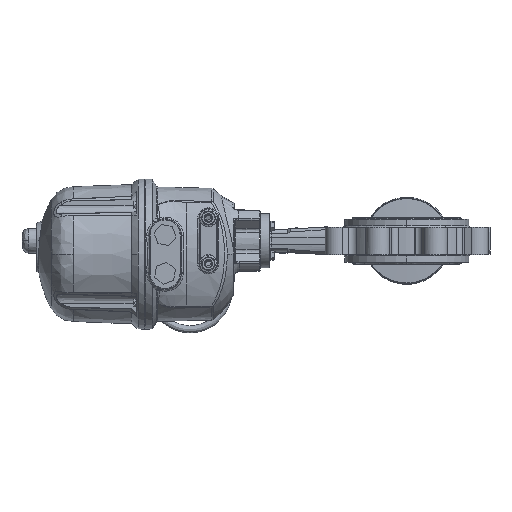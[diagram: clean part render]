
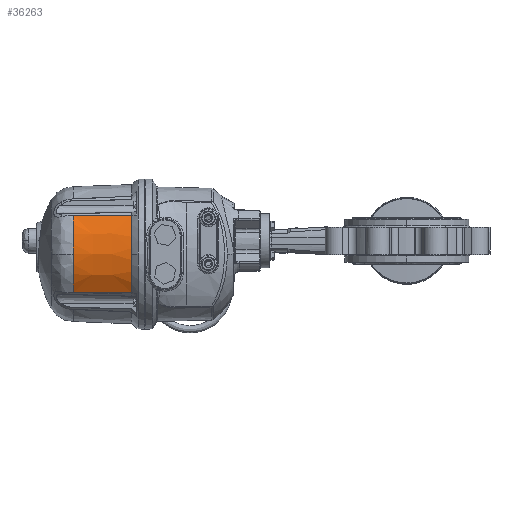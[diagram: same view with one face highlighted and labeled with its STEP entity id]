
A CAD part, left-side view. The second image highlights one B-rep face of the part: STEP entity #36263.
In plain terms, the highlighted conical face has half-angle 2 degrees and reference radius 83.436 mm.
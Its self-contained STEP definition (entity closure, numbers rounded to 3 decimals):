
#3614 = ORIENTED_EDGE ( 'NONE', *, *, #23811, .F. ) ;
#5311 = AXIS2_PLACEMENT_3D ( 'NONE', #90199, #66943, #81898 ) ;
#6573 = DIRECTION ( 'NONE',  ( 0., -1., 0. ) ) ;
#7229 = CARTESIAN_POINT ( 'NONE',  ( -66.328, 400.329, 30.479 ) ) ;
#8989 = B_SPLINE_CURVE_WITH_KNOTS ( 'NONE', 3,
 ( #38554, #72308, #30278, #64028 ),
 .UNSPECIFIED., .F., .F.,
 ( 4, 4 ),
 ( 0., 1. ),
 .UNSPECIFIED. ) ;
#9212 = VERTEX_POINT ( 'NONE', #86447 ) ;
#9348 = ORIENTED_EDGE ( 'NONE', *, *, #91630, .F. ) ;
#10455 = CARTESIAN_POINT ( 'NONE',  ( -66.357, 400.099, -62.452 ) ) ;
#12946 = B_SPLINE_CURVE_WITH_KNOTS ( 'NONE', 3,
 ( #79585, #70211, #71864, #29284, #20978, #10455, #96724, #54673, #60798, #80138 ),
 .UNSPECIFIED., .F., .F.,
 ( 4, 1, 1, 2, 2, 4 ),
 ( 0., 0.25, 0.375, 0.437, 0.5, 1. ),
 .UNSPECIFIED. ) ;
#14127 = CIRCLE ( 'NONE', #5311, 81.001 ) ;
#15043 = CARTESIAN_POINT ( 'NONE',  ( -66.328, 400.329, -62.479 ) ) ;
#16248 = CARTESIAN_POINT ( 'NONE',  ( -66.385, 400.082, 30.413 ) ) ;
#16710 = VERTEX_POINT ( 'NONE', #74043 ) ;
#18840 = B_SPLINE_CURVE_WITH_KNOTS ( 'NONE', 3,
 ( #54999, #88765, #103113, #79352 ),
 .UNSPECIFIED., .F., .F.,
 ( 4, 4 ),
 ( 0., 1. ),
 .UNSPECIFIED. ) ;
#18886 = CIRCLE ( 'NONE', #100071, 81.001 ) ;
#19364 = CARTESIAN_POINT ( 'NONE',  ( 0., 400.082, -16. ) ) ;
#20978 = CARTESIAN_POINT ( 'NONE',  ( -66.354, 400.12, -62.454 ) ) ;
#21290 = EDGE_CURVE ( 'NONE', #41592, #16710, #12946, .T. ) ;
#23058 = CIRCLE ( 'NONE', #54775, 83.436 ) ;
#23811 = EDGE_CURVE ( 'NONE', #23884, #92892, #86289, .T. ) ;
#23884 = VERTEX_POINT ( 'NONE', #74334 ) ;
#23890 = CARTESIAN_POINT ( 'NONE',  ( -66.347, 400.164, -62.462 ) ) ;
#26213 = EDGE_CURVE ( 'NONE', #85832, #9212, #18840, .T. ) ;
#29284 = CARTESIAN_POINT ( 'NONE',  ( -66.35, 400.152, -62.459 ) ) ;
#30278 = CARTESIAN_POINT ( 'NONE',  ( -68.006, 357.316, -62.698 ) ) ;
#33090 = CARTESIAN_POINT ( 'NONE',  ( -66.347, 400.161, 30.462 ) ) ;
#33682 = ORIENTED_EDGE ( 'NONE', *, *, #62757, .F. ) ;
#34162 = CARTESIAN_POINT ( 'NONE',  ( -66.396, 399.828, 30.413 ) ) ;
#34236 = ORIENTED_EDGE ( 'NONE', *, *, #21290, .T. ) ;
#35086 = EDGE_CURVE ( 'NONE', #53082, #85832, #23058, .T. ) ;
#36263 = ADVANCED_FACE ( 'NONE', ( #53575 ), #71000, .T. ) ;
#37164 = B_SPLINE_CURVE_WITH_KNOTS ( 'NONE', 3,
 ( #34162, #60134, #33090, #42415 ),
 .UNSPECIFIED., .F., .F.,
 ( 4, 4 ),
 ( 0., 0.001 ),
 .UNSPECIFIED. ) ;
#38073 = ORIENTED_EDGE ( 'NONE', *, *, #35086, .T. ) ;
#38554 = CARTESIAN_POINT ( 'NONE',  ( -66.396, 399.828, -62.413 ) ) ;
#41592 = VERTEX_POINT ( 'NONE', #101602 ) ;
#41653 = CARTESIAN_POINT ( 'NONE',  ( -66.328, 400.329, 30.479 ) ) ;
#42415 = CARTESIAN_POINT ( 'NONE',  ( -66.328, 400.329, 30.479 ) ) ;
#42675 = DIRECTION ( 'NONE',  ( 0., 1., 0. ) ) ;
#47856 = EDGE_CURVE ( 'NONE', #9212, #92892, #37164, .T. ) ;
#50460 = CARTESIAN_POINT ( 'NONE',  ( 0., 330.347, -16. ) ) ;
#51524 = DIRECTION ( 'NONE',  ( 1., 0., 0. ) ) ;
#53044 = DIRECTION ( 'NONE',  ( 1., 0., 0. ) ) ;
#53072 = CARTESIAN_POINT ( 'NONE',  ( -69.452, 330.043, 30.517 ) ) ;
#53082 = VERTEX_POINT ( 'NONE', #78954 ) ;
#53575 = FACE_OUTER_BOUND ( 'NONE', #108103, .T. ) ;
#54673 = CARTESIAN_POINT ( 'NONE',  ( -66.37, 400.005, -62.438 ) ) ;
#54775 = AXIS2_PLACEMENT_3D ( 'NONE', #50460, #42675, #51524 ) ;
#54999 = CARTESIAN_POINT ( 'NONE',  ( -69.045, 330.347, 30.844 ) ) ;
#55005 = AXIS2_PLACEMENT_3D ( 'NONE', #80704, #6573, #81796 ) ;
#59950 = B_SPLINE_CURVE_WITH_KNOTS ( 'NONE', 3,
 ( #90811, #99614, #23890, #15043 ),
 .UNSPECIFIED., .F., .F.,
 ( 4, 4 ),
 ( 0., 1. ),
 .UNSPECIFIED. ) ;
#60134 = CARTESIAN_POINT ( 'NONE',  ( -66.372, 399.995, 30.437 ) ) ;
#60798 = CARTESIAN_POINT ( 'NONE',  ( -66.382, 399.922, -62.427 ) ) ;
#62757 = EDGE_CURVE ( 'NONE', #64236, #68546, #14127, .T. ) ;
#64028 = CARTESIAN_POINT ( 'NONE',  ( -69.045, 330.347, -62.844 ) ) ;
#64236 = VERTEX_POINT ( 'NONE', #66003 ) ;
#65491 = CARTESIAN_POINT ( 'NONE',  ( -66.366, 400.082, 30.44 ) ) ;
#66003 = CARTESIAN_POINT ( 'NONE',  ( -66.385, 400.082, -62.413 ) ) ;
#66943 = DIRECTION ( 'NONE',  ( 0., 1., 0. ) ) ;
#68546 = VERTEX_POINT ( 'NONE', #83606 ) ;
#70211 = CARTESIAN_POINT ( 'NONE',  ( -66.333, 400.287, -62.475 ) ) ;
#71000 = CONICAL_SURFACE ( 'NONE', #55005, 83.436, 0.035 ) ;
#71864 = CARTESIAN_POINT ( 'NONE',  ( -66.34, 400.225, -62.468 ) ) ;
#72308 = CARTESIAN_POINT ( 'NONE',  ( -67.124, 380.476, -62.551 ) ) ;
#74043 = CARTESIAN_POINT ( 'NONE',  ( -66.396, 399.828, -62.413 ) ) ;
#74252 = ORIENTED_EDGE ( 'NONE', *, *, #26213, .T. ) ;
#74334 = CARTESIAN_POINT ( 'NONE',  ( -66.385, 400.082, 30.413 ) ) ;
#74420 = EDGE_CURVE ( 'NONE', #64236, #41592, #59950, .T. ) ;
#75637 = ORIENTED_EDGE ( 'NONE', *, *, #106201, .T. ) ;
#78954 = CARTESIAN_POINT ( 'NONE',  ( -69.489, 330.043, -62.489 ) ) ;
#79352 = CARTESIAN_POINT ( 'NONE',  ( -66.396, 399.828, 30.413 ) ) ;
#79585 = CARTESIAN_POINT ( 'NONE',  ( -66.328, 400.329, -62.479 ) ) ;
#80138 = CARTESIAN_POINT ( 'NONE',  ( -66.396, 399.828, -62.413 ) ) ;
#80704 = CARTESIAN_POINT ( 'NONE',  ( 0., 330.347, -16. ) ) ;
#81537 = CARTESIAN_POINT ( 'NONE',  ( -66.347, 400.164, 30.462 ) ) ;
#81796 = DIRECTION ( 'NONE',  ( 0., 0., 1. ) ) ;
#81898 = DIRECTION ( 'NONE',  ( 1., 0., 0. ) ) ;
#83606 = CARTESIAN_POINT ( 'NONE',  ( -81.001, 400.082, -16. ) ) ;
#85832 = VERTEX_POINT ( 'NONE', #53072 ) ;
#86289 = B_SPLINE_CURVE_WITH_KNOTS ( 'NONE', 3,
 ( #16248, #65491, #81537, #41653 ),
 .UNSPECIFIED., .F., .F.,
 ( 4, 4 ),
 ( 0., 1. ),
 .UNSPECIFIED. ) ;
#86447 = CARTESIAN_POINT ( 'NONE',  ( -66.396, 399.828, 30.413 ) ) ;
#88765 = CARTESIAN_POINT ( 'NONE',  ( -68.006, 357.316, 30.698 ) ) ;
#90199 = CARTESIAN_POINT ( 'NONE',  ( 0., 400.082, -16. ) ) ;
#90811 = CARTESIAN_POINT ( 'NONE',  ( -66.385, 400.082, -62.413 ) ) ;
#91630 = EDGE_CURVE ( 'NONE', #68546, #23884, #18886, .T. ) ;
#92892 = VERTEX_POINT ( 'NONE', #7229 ) ;
#96724 = CARTESIAN_POINT ( 'NONE',  ( -66.359, 400.087, -62.45 ) ) ;
#98593 = ORIENTED_EDGE ( 'NONE', *, *, #47856, .T. ) ;
#99614 = CARTESIAN_POINT ( 'NONE',  ( -66.366, 400.082, -62.44 ) ) ;
#100071 = AXIS2_PLACEMENT_3D ( 'NONE', #19364, #103920, #53044 ) ;
#101602 = CARTESIAN_POINT ( 'NONE',  ( -66.328, 400.329, -62.479 ) ) ;
#103113 = CARTESIAN_POINT ( 'NONE',  ( -67.124, 380.476, 30.551 ) ) ;
#103920 = DIRECTION ( 'NONE',  ( 0., 1., 0. ) ) ;
#104434 = ORIENTED_EDGE ( 'NONE', *, *, #74420, .T. ) ;
#106201 = EDGE_CURVE ( 'NONE', #16710, #53082, #8989, .T. ) ;
#108103 = EDGE_LOOP ( 'NONE', ( #34236, #75637, #38073, #74252, #98593, #3614, #9348, #33682, #104434 ) ) ;
